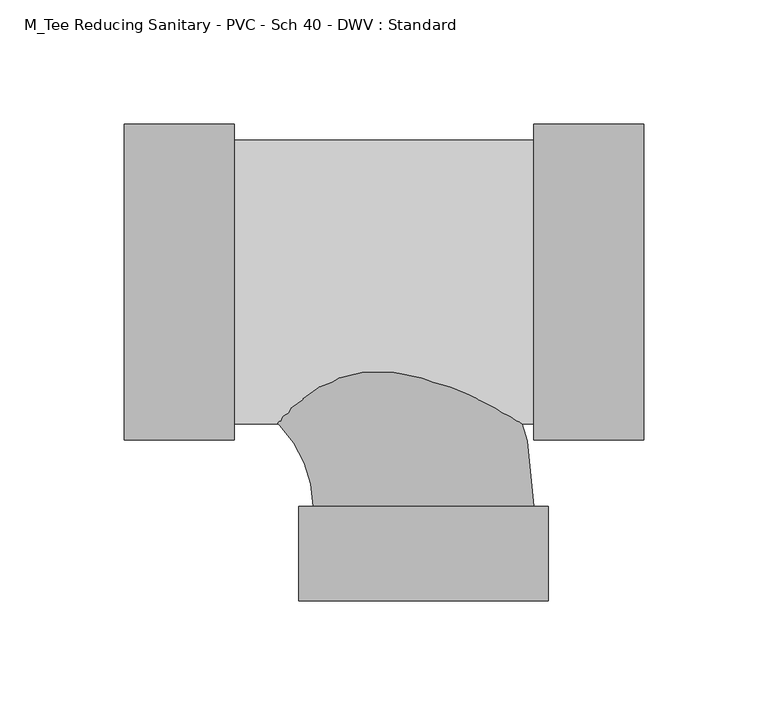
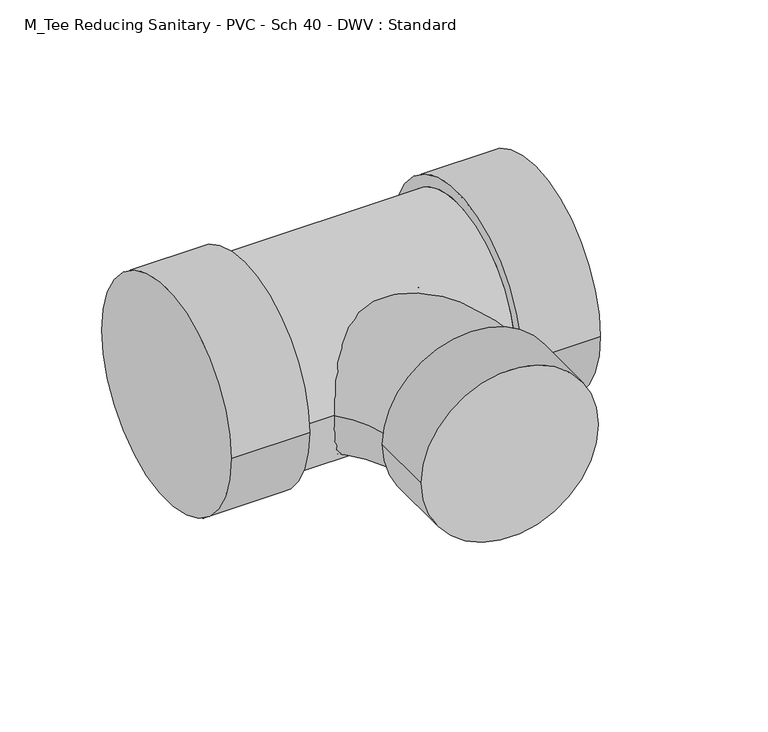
"""IFC4 building model written with IfcOpenShell, lengths in millimetres: pipe fitting geometry, M_Tee Reducing Sanitary - PVC - Sch 40 - DWV : Standard."""

from ifc_helpers import new_model, si_unit, point, frame, origin, place, context, project, spatial, circle_curve, ellipse_curve, trimmed, source, transform, mapped, element, save
from ifc_brep_helpers import plane_surface, cylinder_surface, revolved_surface, advanced_brep


def m_tee_reducing_sanitary_pvc_sch_40_dwv_standard_b49161a9(model_context):
    return source(origin(), model_context, "Body", "AdvancedBrep", [
        advanced_brep(
        [(44.45, -63.754, 0.0), (44.45, 63.754, 0.0), (44.45, -57.15, 0.0), (44.45, 57.15, 0.0), (88.9, -63.754, 0.0), (88.9, 63.754, 0.0), (-76.2, 57.15, 0.0), (-76.2, -57.15, 0.0), (-120.65, -63.754, 0.0), (-120.65, 63.754, 0.0), (-76.2, -63.754, 0.0), (-76.2, 63.754, 0.0)],
        [
            (0, 1, circle_curve(frame((44.45, 0.0, 0.0), z_axis=(-1.0, 0.0, 0.0), x_axis=(0.0, 1.0, 0.0)), 63.754)),
            (1, 0, circle_curve(frame((44.45, 0.0, 0.0), z_axis=(-1.0, 0.0, 0.0), x_axis=(0.0, 1.0, 0.0)), 63.754)),
            (2, 3, circle_curve(frame((44.45, 0.0, 0.0), z_axis=(1.0, 0.0, 0.0), x_axis=(0.0, 0.0, -1.0)), 57.15)),
            (3, 2, circle_curve(frame((44.45, 0.0, 0.0), z_axis=(1.0, 0.0, 0.0), x_axis=(0.0, 0.0, 1.0)), 57.15)),
            (4, 5, circle_curve(frame((88.9, 0.0, 0.0), z_axis=(1.0, 0.0, 0.0), x_axis=(0.0, 1.0, 0.0)), 63.754)),
            (5, 4, circle_curve(frame((88.9, 0.0, 0.0), z_axis=(1.0, 0.0, 0.0), x_axis=(0.0, 1.0, 0.0)), 63.754)),
            (0, 4),
            (5, 1),
            (6, 3),
            (2, 7),
            (7, 6, circle_curve(frame((-76.2, 0.0, 0.0), z_axis=(1.0, 0.0, 0.0), x_axis=(0.0, 0.0, -1.0)), 57.15)),
            (6, 7, circle_curve(frame((-76.2, 0.0, 0.0), z_axis=(1.0, 0.0, 0.0), x_axis=(0.0, 0.0, 1.0)), 57.15)),
            (8, 9, circle_curve(frame((-120.65, 0.0, 0.0), z_axis=(-1.0, 0.0, 0.0), x_axis=(0.0, 1.0, 0.0)), 63.754)),
            (9, 8, circle_curve(frame((-120.65, 0.0, 0.0), z_axis=(-1.0, 0.0, 0.0), x_axis=(0.0, 1.0, 0.0)), 63.754)),
            (10, 11, circle_curve(frame((-76.2, 0.0, 0.0), z_axis=(1.0, 0.0, 0.0), x_axis=(0.0, 1.0, 0.0)), 63.754)),
            (11, 10, circle_curve(frame((-76.2, 0.0, 0.0), z_axis=(1.0, 0.0, 0.0), x_axis=(0.0, 1.0, 0.0)), 63.754)),
            (8, 10),
            (11, 9),
        ],
        [
            plane_surface(frame((44.45, 0.0, 0.0), z_axis=(-1.0, 0.0, 0.0), x_axis=(0.0, 0.0, 1.0))),
            plane_surface(frame((88.9, 0.0, 0.0), z_axis=(1.0, 0.0, 0.0), x_axis=(0.0, 0.0, 1.0))),
            cylinder_surface(frame((44.45, 0.0, 0.0), z_axis=(-1.0, 0.0, 0.0), x_axis=(0.0, 1.0, 0.0)), 63.754),
            cylinder_surface(frame((-76.2, 0.0, 0.0), z_axis=(1.0, 0.0, 0.0), x_axis=(0.0, 0.0, -1.0)), 57.15),
            cylinder_surface(frame((-76.2, 0.0, 0.0), z_axis=(1.0, 0.0, 0.0), x_axis=(0.0, 0.0, 1.0)), 57.15),
            plane_surface(frame((-120.65, 0.0, 0.0), z_axis=(-1.0, 0.0, 0.0), x_axis=(0.0, 0.0, 1.0))),
            plane_surface(frame((-76.2, 0.0, 0.0), z_axis=(1.0, 0.0, 0.0), x_axis=(0.0, 0.0, 1.0))),
            cylinder_surface(frame((-120.65, 0.0, 0.0), z_axis=(-1.0, 0.0, 0.0), x_axis=(0.0, 1.0, 0.0)), 63.754),
        ],
        [
            (0, [[1, 2], [3, 4]]),
            (1, [[5, 6]]),
            (2, [[-1, 7, -6, 8]]),
            (2, [[-2, -8, -5, -7]]),
            (3, [[9, -3, 10, 11]]),
            (4, [[-9, 12, -10, -4]]),
            (5, [[13, 14]]),
            (6, [[15, 16], [-11, -12]]),
            (7, [[-13, 17, -16, 18]]),
            (7, [[-14, -18, -15, -17]]),
        ],
    ),
        advanced_brep(
        [(-50.2666, -90.5002, 0.0), (50.2666, -90.5002, 0.0), (44.45, -90.5002, 0.0), (-44.45, -90.5002, 0.0), (-50.2666, -128.6002, 0.0), (50.2666, -128.6002, 0.0), (-90.5002, -44.45, 0.0), (-90.5002, 44.45, 0.0)],
        [
            (0, 1, circle_curve(frame((0.0, -90.5002, 0.0), z_axis=(0.0, 1.0, 0.0), x_axis=(1.0, 0.0, 0.0)), 50.2666)),
            (1, 0, circle_curve(frame((0.0, -90.5002, 0.0), z_axis=(0.0, 1.0, 0.0), x_axis=(1.0, 0.0, 0.0)), 50.2666)),
            (2, 3, circle_curve(frame((0.0, -90.5002, 0.0), z_axis=(0.0, -1.0, 0.0), x_axis=(1.0, 0.0, 0.0)), 44.45)),
            (3, 2, circle_curve(frame((0.0, -90.5002, 0.0), z_axis=(0.0, -1.0, 0.0), x_axis=(1.0, 0.0, 0.0)), 44.45)),
            (4, 5, circle_curve(frame((0.0, -128.6002, 0.0), z_axis=(0.0, -1.0, 0.0), x_axis=(1.0, 0.0, 0.0)), 50.2666)),
            (5, 4, circle_curve(frame((0.0, -128.6002, 0.0), z_axis=(0.0, -1.0, 0.0), x_axis=(1.0, 0.0, 0.0)), 50.2666)),
            (0, 4),
            (5, 1),
            (6, 7, circle_curve(frame((-90.5002, 0.0, 0.0), z_axis=(-1.0, 0.0, 0.0), x_axis=(0.0, 1.0, 0.0)), 44.45)),
            (7, 6, circle_curve(frame((-90.5002, 0.0, 0.0), z_axis=(-1.0, 0.0, 0.0), x_axis=(0.0, 1.0, 0.0)), 44.45)),
            (6, 3, circle_curve(frame((-90.5002, -90.5002, 0.0), z_axis=(0.0, 0.0, -1.0), x_axis=(0.0, 1.0, 0.0)), 46.0502)),
            (2, 7, circle_curve(frame((-90.5002, -90.5002, 0.0), z_axis=(0.0, 0.0, 1.0), x_axis=(0.0, 1.0, 0.0)), 134.9502)),
        ],
        [
            plane_surface(frame((0.0, -90.5002, 0.0), z_axis=(0.0, 1.0, 0.0), x_axis=(0.0, 0.0, 1.0))),
            plane_surface(frame((0.0, -128.6002, 0.0), z_axis=(0.0, -1.0, 0.0), x_axis=(0.0, 0.0, 1.0))),
            cylinder_surface(frame((0.0, -90.5002, 0.0), z_axis=(0.0, 1.0, 0.0), x_axis=(1.0, 0.0, 0.0)), 50.2666),
            plane_surface(frame((-90.5002, 0.0, 0.0), z_axis=(-1.0, 0.0, 0.0), x_axis=(0.0, 0.0, 1.0))),
            revolved_surface(trimmed(ellipse_curve(frame((-90.5002, 0.0, 0.0), z_axis=(-1.0, 0.0, 0.0), x_axis=(0.0, 1.0, 0.0)), 44.45, 44.45), [point((-90.5002, -44.45, 0.0))], [point((-90.5002, 44.45, 0.0))], True, "CARTESIAN"), (-90.5002, -90.5002, 0.0), (0.0, 0.0, -1.0)),
            revolved_surface(trimmed(ellipse_curve(frame((-90.5002, 0.0, 0.0), z_axis=(-1.0, 0.0, 0.0), x_axis=(0.0, 1.0, 0.0)), 44.45, 44.45), [point((-90.5002, 44.45, 0.0))], [point((-90.5002, -44.45, 0.0))], True, "CARTESIAN"), (-90.5002, -90.5002, 0.0), (0.0, 0.0, -1.0)),
        ],
        [
            (0, [[1, 2], [3, 4]]),
            (1, [[5, 6]]),
            (2, [[-1, 7, -6, 8]]),
            (2, [[-2, -8, -5, -7]]),
            (3, [[9, 10]]),
            (4, [[-9, 11, -3, 12]]),
            (5, [[-10, -12, -4, -11]]),
        ],
    ),
    ])


if __name__ == "__main__":
    model = new_model("IFC4")
    model_context = context("Model", 3, world=origin())
    ifc_project = project(units=[si_unit("LENGTHUNIT", "METRE", prefix="MILLI")], contexts=[model_context])
    site = spatial("IfcSite", under=ifc_project)
    building = spatial("IfcBuilding", under=site)
    placement = place(None, origin())
    m_tee_reducing_sanitary_pvc_sch_40_dwv_standard_shape = m_tee_reducing_sanitary_pvc_sch_40_dwv_standard_b49161a9(model_context)
    element("IfcPipeFitting", 1, ObjectType="M_Tee Reducing Sanitary - PVC - Sch 40 - DWV : Standard", at=placement, inside=building, context=model_context, shape_type="MappedRepresentation", body=[
        mapped(m_tee_reducing_sanitary_pvc_sch_40_dwv_standard_shape, transform((0.0, 0.0, 0.0), x_axis=(1.0, 0.0, 0.0), y_axis=(0.0, 1.0, 0.0), z_axis=(0.0, 0.0, 1.0))),
    ])
    save(model, "model.ifc")
